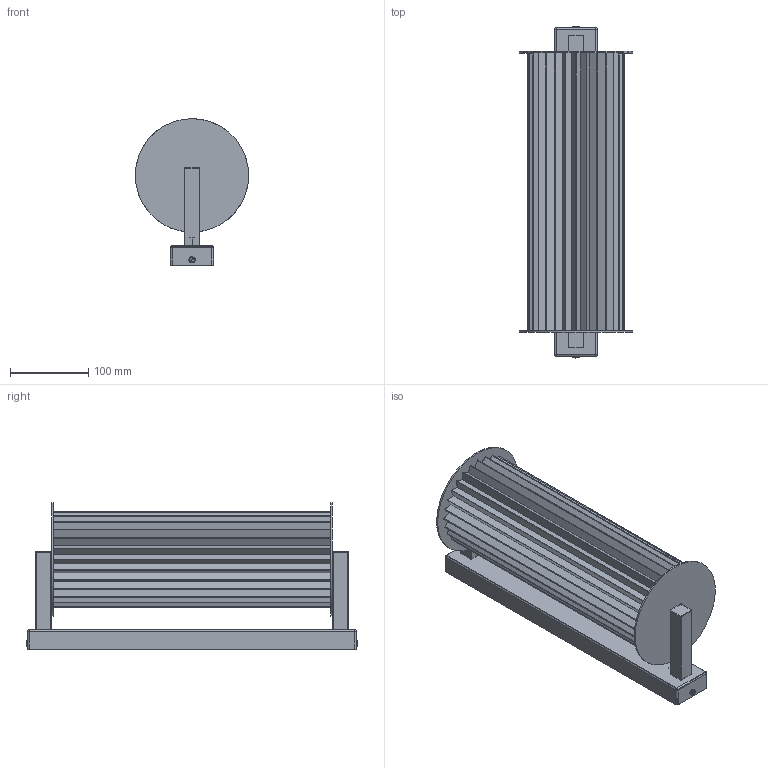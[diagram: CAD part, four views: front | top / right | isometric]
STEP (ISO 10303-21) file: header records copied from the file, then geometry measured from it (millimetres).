
FILE_DESCRIPTION (( 'STEP AP203' ), '1' );
FILE_NAME ('ORI_OR.W036.14_Aplic petit (FORMA).STEP', '2025-07-08T07:53:40', ( '' ), ( '' ), 'SwSTEP 2.0', 'SolidWorks 2013', '' );
FILE_SCHEMA (( 'CONFIG_CONTROL_DESIGN' ));
Length unit declared in the file: millimetre
Products named in the file (7): GI470-Tub 20x20x100; TP477_Pantalla plisada ORI (24 plecs); GI466-Caixa 55x420x25; AG019_M4x8; GI463-Disc Ø145x2_pas 10; GI468-Travesser 415x50; ORI_OR.W036.14_Aplic petit (FORMA)
Assembly tree (9 placements, depth 2):
  ORI_OR.W036.14_Aplic petit (FORMA)
    AG019_M4x8  x2
    GI468-Travesser 415x50
    GI466-Caixa 55x420x25
    GI470-Tub 20x20x100  x2
    GI463-Disc Ø145x2_pas 10  x2
    TP477_Pantalla plisada ORI (24 plecs)
Bounding box: 145 x 424.5 x 187.5 mm (x, y, z)
Volume: 266550.1 mm3; surface area: 685290.7 mm2
Topology: 13 solids, 13 shells, 446 faces, 1185 edges, 762 vertices
Faces by surface type: plane 257, cylinder 173, sphere 8, cone 4, torus 4
Entity records: 13182 total; most frequent: CARTESIAN_POINT 2182, DIRECTION 2173, ORIENTED_EDGE 2114, EDGE_CURVE 1057, LINE 743, VECTOR 743, AXIS2_PLACEMENT_3D 715, VERTEX_POINT 684
